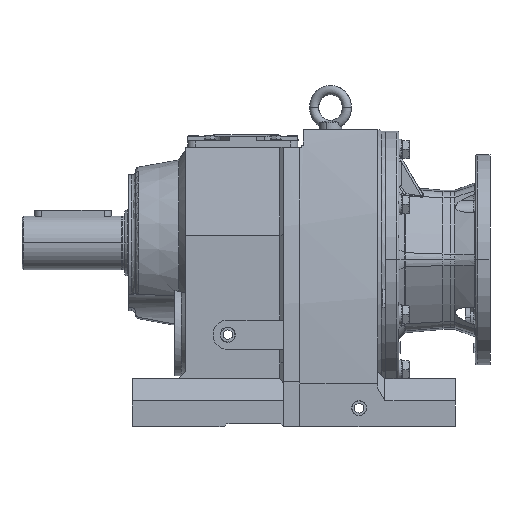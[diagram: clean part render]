
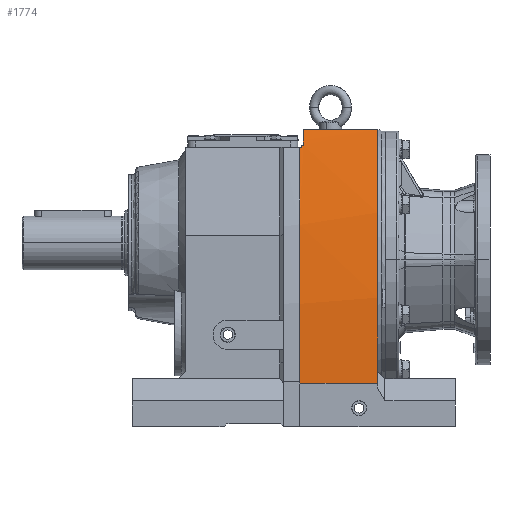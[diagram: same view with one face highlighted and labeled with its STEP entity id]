
A CAD part, front view. The second image highlights one B-rep face of the part: STEP entity #1774.
In plain terms, the highlighted cylindrical face has radius 1000 mm (diameter 2000 mm), a partial arc.
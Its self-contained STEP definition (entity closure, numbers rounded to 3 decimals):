
#1774 = ADVANCED_FACE ( 'NONE', ( #29544 ), #29545, .T. ) ;
#5154 = CIRCLE ( 'NONE', #5162, 1000. ) ;
#5162 = AXIS2_PLACEMENT_3D ( 'NONE', #13782, #13781, #13780 ) ;
#5169 = VECTOR ( 'NONE', #13766, 1000. ) ;
#5176 = CIRCLE ( 'NONE', #5183, 1000. ) ;
#5183 = AXIS2_PLACEMENT_3D ( 'NONE', #13733, #13732, #13730 ) ;
#5185 = CIRCLE ( 'NONE', #5188, 1000. ) ;
#5188 = AXIS2_PLACEMENT_3D ( 'NONE', #13721, #13720, #13719 ) ;
#5192 = VECTOR ( 'NONE', #13712, 1000. ) ;
#5196 = CIRCLE ( 'NONE', #5197, 1000. ) ;
#5197 = AXIS2_PLACEMENT_3D ( 'NONE', #13704, #13703, #13702 ) ;
#5223 = VECTOR ( 'NONE', #13652, 1000. ) ;
#5238 = VECTOR ( 'NONE', #13626, 1000. ) ;
#7225 = VERTEX_POINT ( 'NONE', #36442 ) ;
#7226 = VERTEX_POINT ( 'NONE', #36441 ) ;
#7228 = VERTEX_POINT ( 'NONE', #36438 ) ;
#7235 = VERTEX_POINT ( 'NONE', #36430 ) ;
#7236 = VERTEX_POINT ( 'NONE', #36429 ) ;
#7239 = VERTEX_POINT ( 'NONE', #36426 ) ;
#7241 = VERTEX_POINT ( 'NONE', #36424 ) ;
#7243 = VERTEX_POINT ( 'NONE', #36422 ) ;
#7717 = AXIS2_PLACEMENT_3D ( 'NONE', #39940, #39921, #39525 ) ;
#10526 = EDGE_LOOP ( 'NONE', ( #31258, #31255, #31254, #31256, #31253, #31251, #31250, #31252 ) ) ;
#13626 = DIRECTION ( 'NONE',  ( 1., 0., 0. ) ) ;
#13627 = CARTESIAN_POINT ( 'NONE',  ( 238., -151.886, 154.35 ) ) ;
#13652 = DIRECTION ( 'NONE',  ( 1., 0., 0. ) ) ;
#13654 = CARTESIAN_POINT ( 'NONE',  ( 344., -159.444, 130. ) ) ;
#13702 = DIRECTION ( 'NONE',  ( 0., 1., 0. ) ) ;
#13703 = DIRECTION ( 'NONE',  ( -1., 0., 0. ) ) ;
#13704 = CARTESIAN_POINT ( 'NONE',  ( 240., 799.313, -154.229 ) ) ;
#13712 = DIRECTION ( 'NONE',  ( -1., 0., 0. ) ) ;
#13713 = CARTESIAN_POINT ( 'NONE',  ( 243., -158.549, 133. ) ) ;
#13719 = DIRECTION ( 'NONE',  ( 0., 0., 1. ) ) ;
#13720 = DIRECTION ( 'NONE',  ( -1., 0., 0. ) ) ;
#13721 = CARTESIAN_POINT ( 'NONE',  ( 243., 799.313, -154.229 ) ) ;
#13730 = DIRECTION ( 'NONE',  ( 0., 0., 1. ) ) ;
#13732 = DIRECTION ( 'NONE',  ( -1., 0., 0. ) ) ;
#13733 = CARTESIAN_POINT ( 'NONE',  ( 344., 799.313, -154.229 ) ) ;
#13766 = DIRECTION ( 'NONE',  ( 1., 0., 0. ) ) ;
#13767 = CARTESIAN_POINT ( 'NONE',  ( 344., -200., -191.3 ) ) ;
#13780 = DIRECTION ( 'NONE',  ( 0., 0., 1. ) ) ;
#13781 = DIRECTION ( 'NONE',  ( -1., 0., 0. ) ) ;
#13782 = CARTESIAN_POINT ( 'NONE',  ( 238., 799.313, -154.229 ) ) ;
#14552 = LINE ( 'NONE', #13767, #5169 ) ;
#14564 = LINE ( 'NONE', #13713, #5192 ) ;
#14568 = LINE ( 'NONE', #13654, #5223 ) ;
#14573 = LINE ( 'NONE', #13627, #5238 ) ;
#29544 = FACE_OUTER_BOUND ( 'NONE', #10526, .T. ) ;
#29545 = CYLINDRICAL_SURFACE ( 'NONE', #7717, 1000. ) ;
#31250 = ORIENTED_EDGE ( 'NONE', *, *, #40971, .T. ) ;
#31251 = ORIENTED_EDGE ( 'NONE', *, *, #40968, .F. ) ;
#31252 = ORIENTED_EDGE ( 'NONE', *, *, #40974, .F. ) ;
#31253 = ORIENTED_EDGE ( 'NONE', *, *, #40998, .F. ) ;
#31254 = ORIENTED_EDGE ( 'NONE', *, *, #40953, .T. ) ;
#31255 = ORIENTED_EDGE ( 'NONE', *, *, #40948, .F. ) ;
#31256 = ORIENTED_EDGE ( 'NONE', *, *, #40964, .T. ) ;
#31258 = ORIENTED_EDGE ( 'NONE', *, *, #40989, .F. ) ;
#36422 = CARTESIAN_POINT ( 'NONE',  ( 240., -159.444, 130. ) ) ;
#36424 = CARTESIAN_POINT ( 'NONE',  ( 240., -158.549, 133. ) ) ;
#36426 = CARTESIAN_POINT ( 'NONE',  ( 243., -158.549, 133. ) ) ;
#36429 = CARTESIAN_POINT ( 'NONE',  ( 243., -151.886, 154.35 ) ) ;
#36430 = CARTESIAN_POINT ( 'NONE',  ( 344., -151.886, 154.35 ) ) ;
#36438 = CARTESIAN_POINT ( 'NONE',  ( 344., -200., -191.3 ) ) ;
#36441 = CARTESIAN_POINT ( 'NONE',  ( 238., -159.444, 130. ) ) ;
#36442 = CARTESIAN_POINT ( 'NONE',  ( 238., -200., -191.3 ) ) ;
#39525 = DIRECTION ( 'NONE',  ( 0., 0., 1. ) ) ;
#39921 = DIRECTION ( 'NONE',  ( -1., 0., 0. ) ) ;
#39940 = CARTESIAN_POINT ( 'NONE',  ( 344., 799.313, -154.229 ) ) ;
#40948 = EDGE_CURVE ( 'NONE', #7225, #7226, #5154, .T. ) ;
#40953 = EDGE_CURVE ( 'NONE', #7225, #7228, #14552, .T. ) ;
#40964 = EDGE_CURVE ( 'NONE', #7228, #7235, #5176, .T. ) ;
#40968 = EDGE_CURVE ( 'NONE', #7239, #7236, #5185, .T. ) ;
#40971 = EDGE_CURVE ( 'NONE', #7239, #7241, #14564, .T. ) ;
#40974 = EDGE_CURVE ( 'NONE', #7243, #7241, #5196, .T. ) ;
#40989 = EDGE_CURVE ( 'NONE', #7226, #7243, #14568, .T. ) ;
#40998 = EDGE_CURVE ( 'NONE', #7236, #7235, #14573, .T. ) ;
